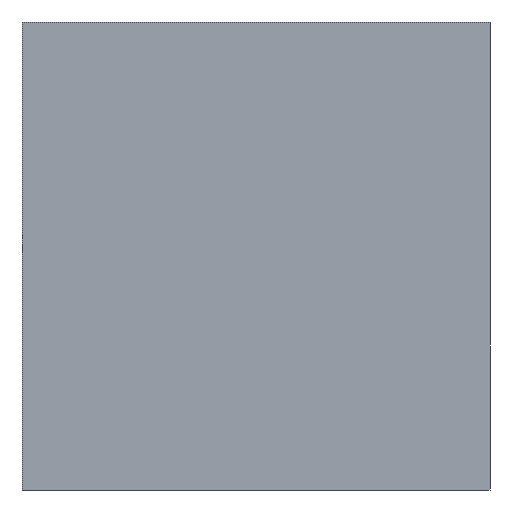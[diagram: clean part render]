
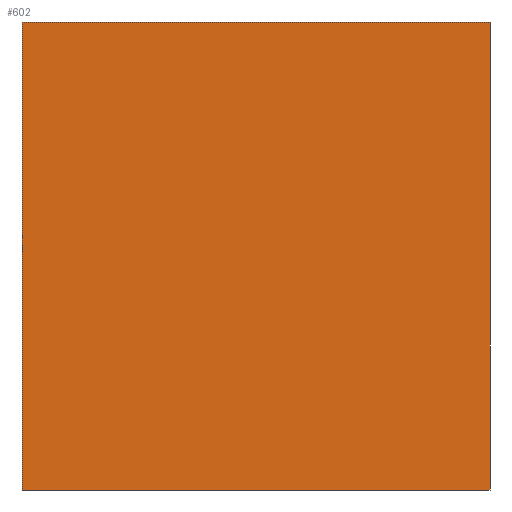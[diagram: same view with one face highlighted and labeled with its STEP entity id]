
A CAD part, left-side view. The second image highlights one B-rep face of the part: STEP entity #602.
In plain terms, the highlighted planar face has unit normal (-1, 0, 0).
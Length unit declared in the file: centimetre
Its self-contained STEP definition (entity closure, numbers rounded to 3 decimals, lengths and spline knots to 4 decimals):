
#13 = PLANE ( 'NONE',  #623 ) ;
#21 = VECTOR ( 'NONE', #874, 100. ) ;
#41 = LINE ( 'NONE', #381, #21 ) ;
#56 = CARTESIAN_POINT ( 'NONE',  ( 0., 0., 0. ) ) ;
#96 = CARTESIAN_POINT ( 'NONE',  ( 0., 1000., 1000. ) ) ;
#187 = EDGE_CURVE ( 'NONE', #464, #380, #237, .T. ) ;
#193 = VECTOR ( 'NONE', #732, 100. ) ;
#218 = ORIENTED_EDGE ( 'NONE', *, *, #187, .F. ) ;
#237 = LINE ( 'NONE', #716, #193 ) ;
#250 = DIRECTION ( 'NONE',  ( 0., 0., -1. ) ) ;
#262 = CARTESIAN_POINT ( 'NONE',  ( 0., 1000., 0. ) ) ;
#295 = EDGE_CURVE ( 'NONE', #464, #827, #997, .T. ) ;
#306 = CARTESIAN_POINT ( 'NONE',  ( 0., 1000., 1000. ) ) ;
#331 = CARTESIAN_POINT ( 'NONE',  ( 0., 1000., 1000. ) ) ;
#341 = LINE ( 'NONE', #509, #840 ) ;
#343 = DIRECTION ( 'NONE',  ( 0., 0., -1. ) ) ;
#380 = VERTEX_POINT ( 'NONE', #490 ) ;
#381 = CARTESIAN_POINT ( 'NONE',  ( 0., 1000., 0. ) ) ;
#406 = DIRECTION ( 'NONE',  ( 1., 0., 0. ) ) ;
#434 = EDGE_CURVE ( 'NONE', #380, #571, #341, .T. ) ;
#464 = VERTEX_POINT ( 'NONE', #96 ) ;
#490 = CARTESIAN_POINT ( 'NONE',  ( 0., 0., 1000. ) ) ;
#509 = CARTESIAN_POINT ( 'NONE',  ( 0., 0., 1000. ) ) ;
#555 = ORIENTED_EDGE ( 'NONE', *, *, #295, .T. ) ;
#571 = VERTEX_POINT ( 'NONE', #56 ) ;
#602 = ADVANCED_FACE ( 'NONE', ( #911 ), #13, .F. ) ;
#623 = AXIS2_PLACEMENT_3D ( 'NONE', #306, #406, #343 ) ;
#716 = CARTESIAN_POINT ( 'NONE',  ( 0., 1000., 1000. ) ) ;
#732 = DIRECTION ( 'NONE',  ( 0., -1., 0. ) ) ;
#827 = VERTEX_POINT ( 'NONE', #262 ) ;
#840 = VECTOR ( 'NONE', #250, 100. ) ;
#874 = DIRECTION ( 'NONE',  ( 0., -1., 0. ) ) ;
#907 = ORIENTED_EDGE ( 'NONE', *, *, #434, .F. ) ;
#911 = FACE_OUTER_BOUND ( 'NONE', #993, .T. ) ;
#915 = DIRECTION ( 'NONE',  ( 0., 0., -1. ) ) ;
#925 = EDGE_CURVE ( 'NONE', #827, #571, #41, .T. ) ;
#940 = ORIENTED_EDGE ( 'NONE', *, *, #925, .T. ) ;
#993 = EDGE_LOOP ( 'NONE', ( #940, #907, #218, #555 ) ) ;
#997 = LINE ( 'NONE', #331, #1069 ) ;
#1069 = VECTOR ( 'NONE', #915, 100. ) ;
